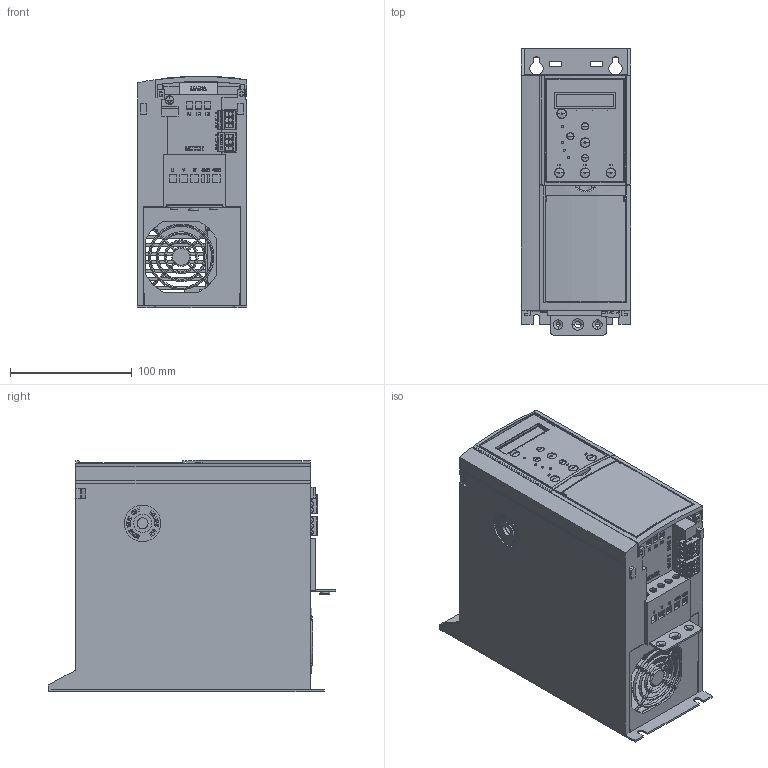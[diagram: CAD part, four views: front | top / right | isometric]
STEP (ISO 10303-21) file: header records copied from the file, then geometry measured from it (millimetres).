
FILE_DESCRIPTION((''),'2;1');
FILE_NAME('H2-IP20-2_ASM','2013-05-16T',('U248342'),('Danfoss Power Electronics'),'PRO/ENGINEER BY PARAMETRIC TECHNOLOGY CORPORATION, 2011490','PRO/ENGINEER BY PARAMETRIC TECHNOLOGY CORPORATION, 2011490','');
FILE_SCHEMA(('CONFIG_CONTROL_DESIGN', 'GEOMETRIC_VALIDATION_PROPERTIES_MIM'));
Products named in the file (19): 132B5733; 132B5733_ASM; 132B5734; 132B5734_ASM; H2-PCA_ASM; 132B4112; 132B3406; 132B3420_ASM; 132B3401; 132B3430_ASM; 132B4121; 132B4117; 132B4148_UMSH-8244JN-F; LCD_LIGHTGUIDE_ASM; 132B4142; 132B4144; 132B9105_ASM; 132B4133; H2-IP20-2_ASM
Assembly tree (18 placements, depth 4):
  H2-IP20-2_ASM
    H2-PCA_ASM
      132B5733_ASM
        132B5733
      132B5734_ASM
        132B5734
    132B4112
    132B3420_ASM
      132B3406
    132B3430_ASM
      132B3401
    132B4121
    132B4117
    132B9105_ASM
      LCD_LIGHTGUIDE_ASM
        132B4148_UMSH-8244JN-F
      132B4142
      132B4144
    132B4133
Bounding box: 90 x 236.1 x 190.18 mm (x, y, z)
Volume: 447380.9 mm3; surface area: 445519.3 mm2
Topology: 11 solids, 15 shells, 3877 faces, 10830 edges, 7121 vertices
Faces by surface type: plane 3369, cylinder 360, torus 86, bspline 56, cone 6
Entity records: 165431 total; most frequent: CARTESIAN_POINT 27553, ORIENTED_EDGE 21632, DIRECTION 19302, PRESENTATION_STYLE_ASSIGNMENT 11377, STYLED_ITEM 10842, CURVE_STYLE 10830, EDGE_CURVE 10830, VECTOR 9626
